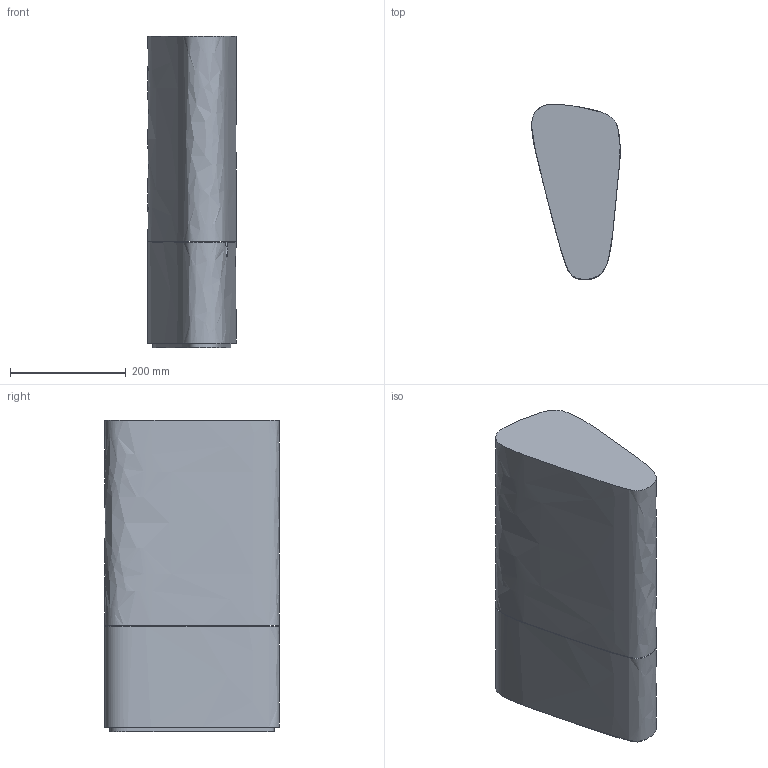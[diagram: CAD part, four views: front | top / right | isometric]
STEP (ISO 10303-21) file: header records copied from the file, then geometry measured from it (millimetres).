
FILE_DESCRIPTION(/* description */ (''),/* implementation_level */ '2;1');
FILE_NAME(/* name */ 'Fulcrum Table Lamp.step',/* time_stamp */ '2026-07-02T11:34:17+12:00',/* author */ (''),/* organization */ (''),/* preprocessor_version */ 'ST-DEVELOPER v20.1',/* originating_system */ 'Autodesk Translation Framework v15.8.0.0',/* authorisation */ '');
FILE_SCHEMA (('AUTOMOTIVE_DESIGN { 1 0 10303 214 3 1 1 }'));
Length unit declared in the file: millimetre
Products named in the file (1): Fulcrum Table Lamp
Bounding box: 153.2 x 302.66 x 539 mm (x, y, z)
Volume: 18573677.7 mm3; surface area: 548885.2 mm2
Topology: 2 solids, 2 shells, 10 faces, 16 edges, 11 vertices
Faces by surface type: bspline 5, plane 5
Entity records: 1529 total; most frequent: CARTESIAN_POINT 1352, ORIENTED_EDGE 32, EDGE_CURVE 16, DIRECTION 15, EDGE_LOOP 11, B_SPLINE_CURVE_WITH_KNOTS 11, VERTEX_POINT 11, FACE_OUTER_BOUND 10
